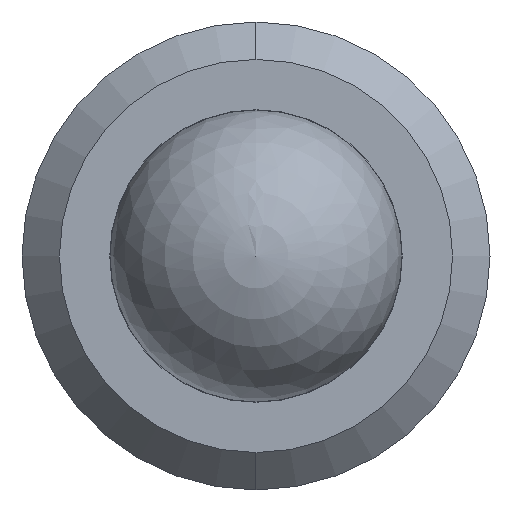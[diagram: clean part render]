
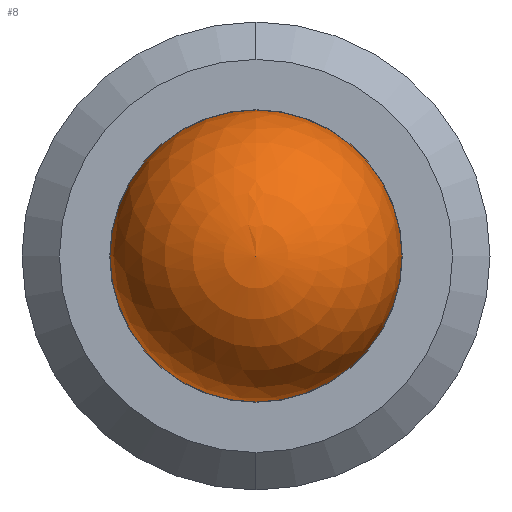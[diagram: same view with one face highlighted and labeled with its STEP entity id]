
A CAD part, left-side view. The second image highlights one B-rep face of the part: STEP entity #8.
In plain terms, the highlighted spherical face has radius 1.984 mm.
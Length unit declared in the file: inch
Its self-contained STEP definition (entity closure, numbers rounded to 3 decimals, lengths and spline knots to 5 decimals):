
#3 = EDGE_CURVE ( 'NONE', #315, #362, #444, .T. ) ;
#8 = ADVANCED_FACE ( 'NONE', ( #193 ), #311, .T. ) ;
#34 = DIRECTION ( 'NONE',  ( -1., 0., 0. ) ) ;
#67 = ORIENTED_EDGE ( 'NONE', *, *, #3, .T. ) ;
#96 = EDGE_CURVE ( 'NONE', #315, #362, #365, .T. ) ;
#115 = CARTESIAN_POINT ( 'NONE',  ( 0., 0.07813, 0. ) ) ;
#178 = DIRECTION ( 'NONE',  ( -1., 0., 0. ) ) ;
#193 = FACE_OUTER_BOUND ( 'NONE', #270, .T. ) ;
#239 = CARTESIAN_POINT ( 'NONE',  ( 0., 0., 0. ) ) ;
#270 = EDGE_LOOP ( 'NONE', ( #338, #67 ) ) ;
#276 = DIRECTION ( 'NONE',  ( 0., 0., 1. ) ) ;
#311 = SPHERICAL_SURFACE ( 'NONE', #590, 0.07813 ) ;
#315 = VERTEX_POINT ( 'NONE', #115 ) ;
#338 = ORIENTED_EDGE ( 'NONE', *, *, #96, .F. ) ;
#362 = VERTEX_POINT ( 'NONE', #601 ) ;
#365 = CIRCLE ( 'NONE', #479, 0.07813 ) ;
#406 = DIRECTION ( 'NONE',  ( 1., 0., 0. ) ) ;
#444 = CIRCLE ( 'NONE', #607, 0.07813 ) ;
#479 = AXIS2_PLACEMENT_3D ( 'NONE', #487, #406, #602 ) ;
#487 = CARTESIAN_POINT ( 'NONE',  ( 0., 0., 0. ) ) ;
#533 = DIRECTION ( 'NONE',  ( 0., 0., 1. ) ) ;
#590 = AXIS2_PLACEMENT_3D ( 'NONE', #239, #178, #276 ) ;
#601 = CARTESIAN_POINT ( 'NONE',  ( 0., -0.07813, 0. ) ) ;
#602 = DIRECTION ( 'NONE',  ( 0., 0., -1. ) ) ;
#607 = AXIS2_PLACEMENT_3D ( 'NONE', #620, #34, #533 ) ;
#620 = CARTESIAN_POINT ( 'NONE',  ( 0., 0., 0. ) ) ;
